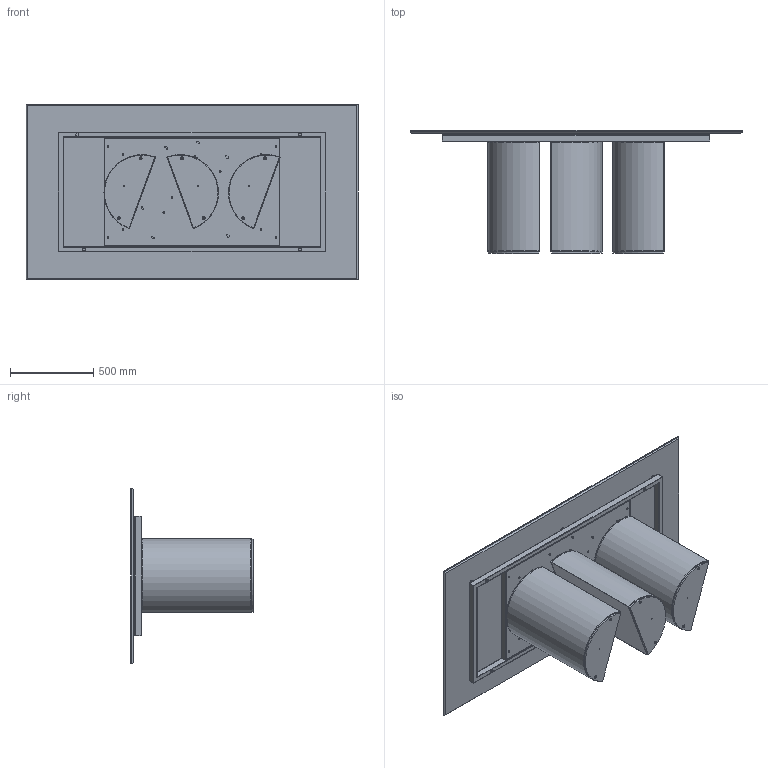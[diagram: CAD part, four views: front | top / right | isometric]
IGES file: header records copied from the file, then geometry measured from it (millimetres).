
Start section: SolidWorks IGES file using analytic representation for surfaces
Global section: file name: Y:\eforma\TECNICO\SOLIDWORKS\E-FORMA\1-TAVOLI\PLAI\02 parts\PL21C.IGS; native system: SolidWorks 2022; preprocessor: SolidWorks 2022; author: eforma.tech; date: 240807.155042; units: millimetre
Bounding box: 2000 x 740 x 1060 mm (x, y, z)
Volume: 46498522.2 mm3; surface area: 17196516.5 mm2
Topology: 49 solids, 49 shells, 1130 faces, 2534 edges, 1484 vertices
Faces by surface type: revolution 649, plane 481
